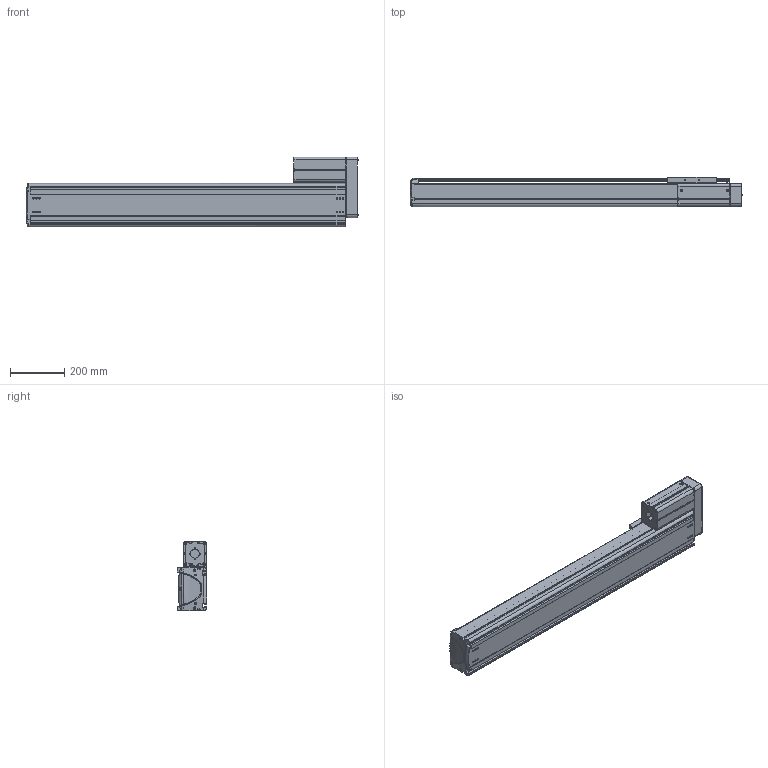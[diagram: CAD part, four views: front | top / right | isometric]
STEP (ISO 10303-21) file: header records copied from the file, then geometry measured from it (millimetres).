
FILE_DESCRIPTION((''),'2;1');
FILE_NAME('BE50F-UR-M_B-90_IGS_PRT','2017-06-18T',(' '),(''),'PRO/ENGINEER BY PARAMETRIC TECHNOLOGY CORPORATION, 2015030','PRO/ENGINEER BY PARAMETRIC TECHNOLOGY CORPORATION, 2015030','');
FILE_SCHEMA(('CONFIG_CONTROL_DESIGN'));
Length unit declared in the file: millimetre
Products named in the file (1): BE50F-UR-M_B-90_IGS_PRT
Bounding box: 1225.88 x 110 x 257 mm (x, y, z)
Volume: 5140272.4 mm3; surface area: 2124769.6 mm2
Topology: 6 solids, 134 shells, 2219 faces, 6056 edges, 3960 vertices
Faces by surface type: plane 1002, cylinder 951, cone 127, torus 59, bspline 48, sphere 32
Entity records: 73559 total; most frequent: CARTESIAN_POINT 16774, DIRECTION 11883, ORIENTED_EDGE 11540, EDGE_CURVE 6010, AXIS2_PLACEMENT_3D 4239, VERTEX_POINT 3954, VECTOR 3405, LINE 3405
